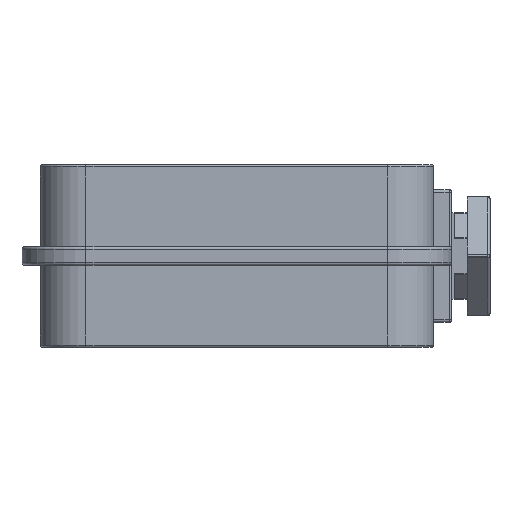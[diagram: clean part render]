
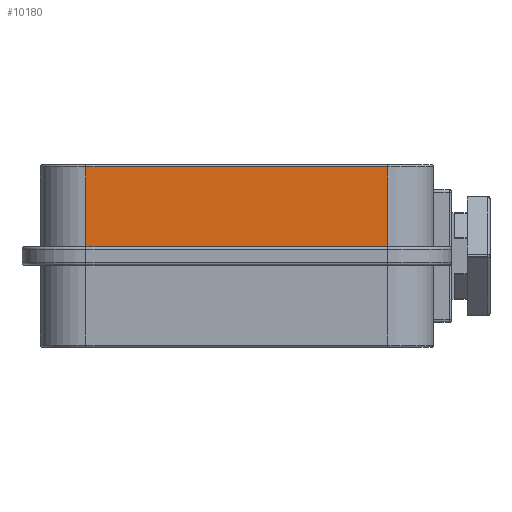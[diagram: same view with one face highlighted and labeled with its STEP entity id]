
A CAD part, front view. The second image highlights one B-rep face of the part: STEP entity #10180.
In plain terms, the highlighted planar face has unit normal (0, -1, 0).
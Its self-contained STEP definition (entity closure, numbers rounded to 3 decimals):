
#321 = VERTEX_POINT ( 'NONE', #2614 ) ;
#842 = CARTESIAN_POINT ( 'NONE',  ( 16.5, -41.5, 9.75 ) ) ;
#1784 = FACE_OUTER_BOUND ( 'NONE', #2741, .T. ) ;
#1805 = EDGE_CURVE ( 'NONE', #321, #3449, #3300, .T. ) ;
#1882 = DIRECTION ( 'NONE',  ( 0., 0., -1. ) ) ;
#2051 = VERTEX_POINT ( 'NONE', #842 ) ;
#2079 = DIRECTION ( 'NONE',  ( 0., 0., -1. ) ) ;
#2574 = CARTESIAN_POINT ( 'NONE',  ( -16.5, -41.5, 9.75 ) ) ;
#2614 = CARTESIAN_POINT ( 'NONE',  ( -16.5, -41.5, 1. ) ) ;
#2741 = EDGE_LOOP ( 'NONE', ( #3989, #9113, #3178, #4626 ) ) ;
#2943 = DIRECTION ( 'NONE',  ( 1., 0., 0. ) ) ;
#3178 = ORIENTED_EDGE ( 'NONE', *, *, #3460, .T. ) ;
#3300 = LINE ( 'NONE', #6851, #3428 ) ;
#3428 = VECTOR ( 'NONE', #2943, 1000. ) ;
#3449 = VERTEX_POINT ( 'NONE', #5924 ) ;
#3460 = EDGE_CURVE ( 'NONE', #9919, #321, #8637, .T. ) ;
#3847 = AXIS2_PLACEMENT_3D ( 'NONE', #10194, #4608, #9427 ) ;
#3989 = ORIENTED_EDGE ( 'NONE', *, *, #9717, .F. ) ;
#4608 = DIRECTION ( 'NONE',  ( 0., 1., 0. ) ) ;
#4626 = ORIENTED_EDGE ( 'NONE', *, *, #1805, .T. ) ;
#4673 = LINE ( 'NONE', #9741, #8824 ) ;
#5624 = LINE ( 'NONE', #2574, #8446 ) ;
#5924 = CARTESIAN_POINT ( 'NONE',  ( 16.5, -41.5, 1. ) ) ;
#6851 = CARTESIAN_POINT ( 'NONE',  ( -16.5, -41.5, 1. ) ) ;
#8350 = CARTESIAN_POINT ( 'NONE',  ( -16.5, -41.5, 10. ) ) ;
#8446 = VECTOR ( 'NONE', #8938, 1000. ) ;
#8637 = LINE ( 'NONE', #8350, #9732 ) ;
#8824 = VECTOR ( 'NONE', #1882, 1000. ) ;
#8935 = CARTESIAN_POINT ( 'NONE',  ( -16.5, -41.5, 9.75 ) ) ;
#8938 = DIRECTION ( 'NONE',  ( -1., 0., 0. ) ) ;
#9113 = ORIENTED_EDGE ( 'NONE', *, *, #9789, .T. ) ;
#9284 = PLANE ( 'NONE',  #3847 ) ;
#9427 = DIRECTION ( 'NONE',  ( 0., 0., 1. ) ) ;
#9717 = EDGE_CURVE ( 'NONE', #2051, #3449, #4673, .T. ) ;
#9732 = VECTOR ( 'NONE', #2079, 1000. ) ;
#9741 = CARTESIAN_POINT ( 'NONE',  ( 16.5, -41.5, 10. ) ) ;
#9789 = EDGE_CURVE ( 'NONE', #2051, #9919, #5624, .T. ) ;
#9919 = VERTEX_POINT ( 'NONE', #8935 ) ;
#10180 = ADVANCED_FACE ( 'NONE', ( #1784 ), #9284, .F. ) ;
#10194 = CARTESIAN_POINT ( 'NONE',  ( -16.5, -41.5, 10. ) ) ;
